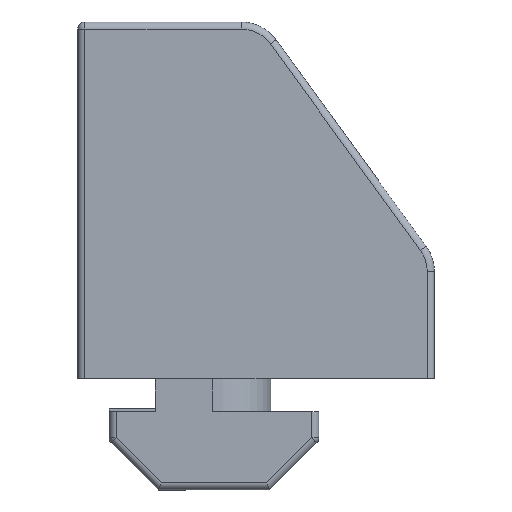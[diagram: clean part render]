
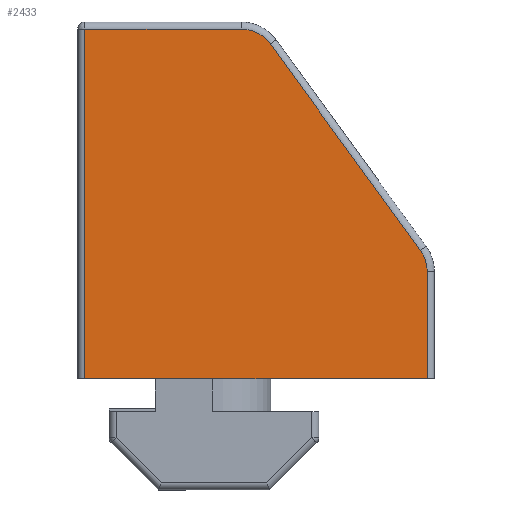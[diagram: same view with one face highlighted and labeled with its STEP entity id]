
A CAD part, left-side view. The second image highlights one B-rep face of the part: STEP entity #2433.
In plain terms, the highlighted planar face has unit normal (-1, 0, 0).
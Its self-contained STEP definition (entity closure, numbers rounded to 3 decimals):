
#62=PLANE('',#2620);
#155=FACE_OUTER_BOUND('',#306,.T.);
#306=EDGE_LOOP('',(#1810,#1811,#1812,#1813,#1814,#1815,#1816));
#444=CIRCLE('',#2621,2.5);
#445=CIRCLE('',#2622,2.5);
#576=LINE('',#4887,#807);
#599=LINE('',#4950,#830);
#600=LINE('',#4954,#831);
#601=LINE('',#4955,#832);
#602=LINE('',#4957,#833);
#807=VECTOR('',#2939,1000.);
#830=VECTOR('',#2992,1000.);
#831=VECTOR('',#2995,1000.);
#832=VECTOR('',#2996,1000.);
#833=VECTOR('',#2997,1000.);
#1066=VERTEX_POINT('',#4884);
#1067=VERTEX_POINT('',#4886);
#1091=VERTEX_POINT('',#4948);
#1092=VERTEX_POINT('',#4949);
#1093=VERTEX_POINT('',#4951);
#1094=VERTEX_POINT('',#4953);
#1095=VERTEX_POINT('',#4956);
#1323=EDGE_CURVE('',#1066,#1067,#576,.T.);
#1354=EDGE_CURVE('',#1091,#1092,#599,.T.);
#1355=EDGE_CURVE('',#1092,#1093,#444,.T.);
#1356=EDGE_CURVE('',#1093,#1094,#600,.T.);
#1357=EDGE_CURVE('',#1094,#1067,#601,.T.);
#1358=EDGE_CURVE('',#1066,#1095,#602,.T.);
#1359=EDGE_CURVE('',#1091,#1095,#445,.T.);
#1810=ORIENTED_EDGE('',*,*,#1354,.T.);
#1811=ORIENTED_EDGE('',*,*,#1355,.T.);
#1812=ORIENTED_EDGE('',*,*,#1356,.T.);
#1813=ORIENTED_EDGE('',*,*,#1357,.T.);
#1814=ORIENTED_EDGE('',*,*,#1323,.F.);
#1815=ORIENTED_EDGE('',*,*,#1358,.T.);
#1816=ORIENTED_EDGE('',*,*,#1359,.F.);
#2433=ADVANCED_FACE('',(#155),#62,.T.);
#2620=AXIS2_PLACEMENT_3D('',#4947,#2990,#2991);
#2621=AXIS2_PLACEMENT_3D('',#4952,#2993,#2994);
#2622=AXIS2_PLACEMENT_3D('',#4958,#2998,#2999);
#2939=DIRECTION('',(0.,1.,0.));
#2990=DIRECTION('center_axis',(-1.,0.,0.));
#2991=DIRECTION('ref_axis',(0.,0.,
-1.));
#2992=DIRECTION('',(0.,0.588,0.809));
#2993=DIRECTION('center_axis',(-1.,0.,0.));
#2994=DIRECTION('ref_axis',(0.,0.,1.));
#2995=DIRECTION('',(0.,1.,0.));
#2996=DIRECTION('',(0.,0.,-1.));
#2997=DIRECTION('',(0.,0.,1.));
#2998=DIRECTION('center_axis',(1.,0.,0.));
#2999=DIRECTION('ref_axis',(0.,-1.,0.));
#4884=CARTESIAN_POINT('',(-12.25,-11.05,7.8));
#4886=CARTESIAN_POINT('',(-12.25,12.95,7.8));
#4887=CARTESIAN_POINT('',(-12.25,13.45,7.8));
#4947=CARTESIAN_POINT('Origin',(-12.25,13.45,7.8));
#4948=CARTESIAN_POINT('',(-12.25,-10.572,16.795));
#4949=CARTESIAN_POINT('',(-12.25,-0.044,31.27));
#4950=CARTESIAN_POINT('',(-12.25,-10.572,16.795));
#4951=CARTESIAN_POINT('',(-12.25,1.978,32.3));
#4952=CARTESIAN_POINT('Origin',(-12.25,1.978,29.8));
#4953=CARTESIAN_POINT('',(-12.25,12.95,32.3));
#4954=CARTESIAN_POINT('',(-12.25,13.45,32.3));
#4955=CARTESIAN_POINT('',(-12.25,12.95,7.8));
#4956=CARTESIAN_POINT('',(-12.25,-11.05,15.324));
#4957=CARTESIAN_POINT('',(-12.25,-11.05,7.8));
#4958=CARTESIAN_POINT('Origin',(-12.25,-8.55,15.324));
